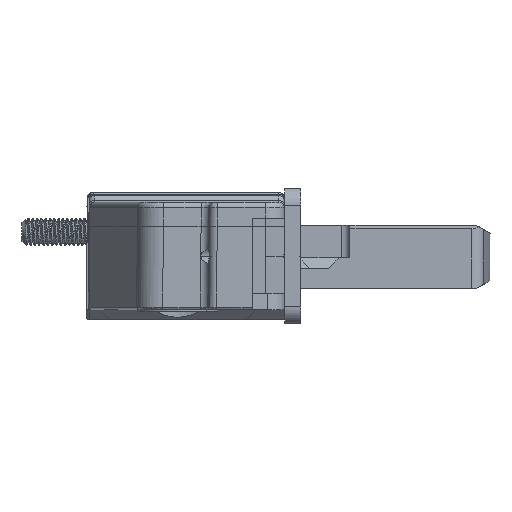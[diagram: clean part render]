
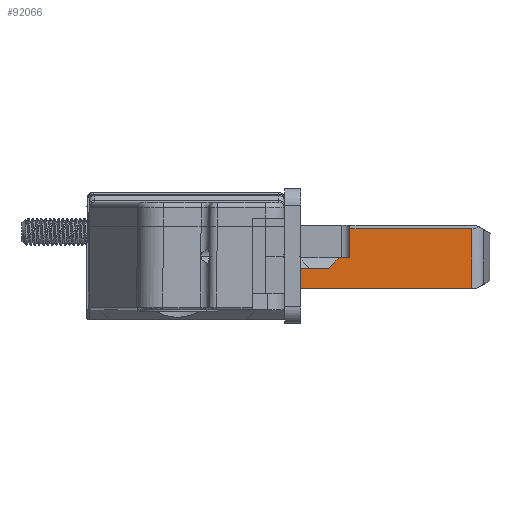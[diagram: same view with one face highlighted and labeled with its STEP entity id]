
A CAD part, front view. The second image highlights one B-rep face of the part: STEP entity #92066.
In plain terms, the highlighted planar face has unit normal (0, -1, 0) as drawn and (0, 0, 1) by its records, which use the part's own axes.
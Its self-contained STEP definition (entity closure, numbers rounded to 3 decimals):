
#89975=DIRECTION('',(1.,0.,0.));
#89976=VECTOR('',#89975,62.368);
#89977=CARTESIAN_POINT('',(-13.3,0.,12.9));
#89978=LINE('',#89977,#89976);
#90106=DIRECTION('',(1.,0.,0.));
#90107=VECTOR('',#90106,22.8);
#90108=CARTESIAN_POINT('',(-13.3,11.7,12.9));
#90109=LINE('',#90108,#90107);
#90588=DIRECTION('',(1.,0.,0.));
#90589=VECTOR('',#90588,22.568);
#90590=CARTESIAN_POINT('',(26.5,11.123,12.9));
#90591=LINE('',#90590,#90589);
#90592=DIRECTION('',(0.,1.,0.));
#90593=VECTOR('',#90592,11.7);
#90594=CARTESIAN_POINT('',(-13.3,0.,12.9));
#90595=LINE('',#90594,#90593);
#90596=DIRECTION('',(0.,-1.,0.));
#90597=VECTOR('',#90596,6.);
#90598=CARTESIAN_POINT('',(9.5,11.7,12.9));
#90599=LINE('',#90598,#90597);
#90600=DIRECTION('',(-1.,0.,0.));
#90601=VECTOR('',#90600,1.338);
#90602=CARTESIAN_POINT('',(10.838,5.7,12.9));
#90603=LINE('',#90602,#90601);
#90604=DIRECTION('',(1.,0.,0.));
#90605=VECTOR('',#90604,8.949);
#90606=CARTESIAN_POINT('',(13.551,3.7,12.9));
#90607=LINE('',#90606,#90605);
#90608=DIRECTION('',(-1.,0.,0.));
#90609=VECTOR('',#90608,2.);
#90610=CARTESIAN_POINT('',(26.5,5.7,12.9));
#90611=LINE('',#90610,#90609);
#90612=DIRECTION('',(0.,-1.,0.));
#90613=VECTOR('',#90612,5.423);
#90614=CARTESIAN_POINT('',(26.5,11.123,12.9));
#90615=LINE('',#90614,#90613);
#90670=DIRECTION('',(-0.805,0.593,0.));
#90671=VECTOR('',#90670,3.371);
#90672=CARTESIAN_POINT('',(13.551,3.7,12.9));
#90673=LINE('',#90672,#90671);
#90702=DIRECTION('',(-0.707,-0.707,0.));
#90703=VECTOR('',#90702,2.828);
#90704=CARTESIAN_POINT('',(24.5,5.7,12.9));
#90705=LINE('',#90704,#90703);
#90798=DIRECTION('',(0.,1.,0.));
#90799=VECTOR('',#90798,11.123);
#90800=CARTESIAN_POINT('',(49.068,0.,12.9));
#90801=LINE('',#90800,#90799);
#91085=CARTESIAN_POINT('',(26.5,5.7,12.9));
#91086=VERTEX_POINT('',#91085);
#91091=CARTESIAN_POINT('',(9.5,11.7,12.9));
#91092=VERTEX_POINT('',#91091);
#91093=CARTESIAN_POINT('',(9.5,5.7,12.9));
#91094=VERTEX_POINT('',#91093);
#91095=CARTESIAN_POINT('',(13.551,3.7,12.9));
#91097=VERTEX_POINT('',#91095);
#91099=CARTESIAN_POINT('',(10.838,5.7,12.9));
#91101=VERTEX_POINT('',#91099);
#91104=CARTESIAN_POINT('',(22.5,3.7,12.9));
#91106=VERTEX_POINT('',#91104);
#91108=CARTESIAN_POINT('',(24.5,5.7,12.9));
#91110=VERTEX_POINT('',#91108);
#91117=CARTESIAN_POINT('',(49.068,0.,12.9));
#91118=VERTEX_POINT('',#91117);
#91172=CARTESIAN_POINT('',(-13.3,11.7,12.9));
#91174=VERTEX_POINT('',#91172);
#91175=CARTESIAN_POINT('',(-13.3,0.,12.9));
#91176=VERTEX_POINT('',#91175);
#91211=CARTESIAN_POINT('',(26.5,11.123,12.9));
#91213=VERTEX_POINT('',#91211);
#91217=CARTESIAN_POINT('',(49.068,11.123,12.9));
#91218=VERTEX_POINT('',#91217);
#92038=CARTESIAN_POINT('',(-16.797,0.,12.9));
#92039=DIRECTION('',(0.,0.,1.));
#92040=DIRECTION('',(1.,0.,0.));
#92041=AXIS2_PLACEMENT_3D('',#92038,#92039,#92040);
#92042=PLANE('',#92041);
#92044=ORIENTED_EDGE('',*,*,#92043,.T.);
#92046=ORIENTED_EDGE('',*,*,#92045,.F.);
#92047=ORIENTED_EDGE('',*,*,#91258,.F.);
#92048=ORIENTED_EDGE('',*,*,#92031,.T.);
#92049=ORIENTED_EDGE('',*,*,#91362,.T.);
#92051=ORIENTED_EDGE('',*,*,#92050,.T.);
#92053=ORIENTED_EDGE('',*,*,#92052,.F.);
#92055=ORIENTED_EDGE('',*,*,#92054,.F.);
#92057=ORIENTED_EDGE('',*,*,#92056,.T.);
#92059=ORIENTED_EDGE('',*,*,#92058,.F.);
#92061=ORIENTED_EDGE('',*,*,#92060,.F.);
#92063=ORIENTED_EDGE('',*,*,#92062,.F.);
#92064=EDGE_LOOP('',(#92044,#92046,#92047,#92048,#92049,#92051,#92053,#92055,
#92057,#92059,#92061,#92063));
#92065=FACE_OUTER_BOUND('',#92064,.F.);
#92066=ADVANCED_FACE('',(#92065),#92042,.T.);
#91258=EDGE_CURVE('',#91176,#91118,#89978,.T.);
#91362=EDGE_CURVE('',#91174,#91092,#90109,.T.);
#92031=EDGE_CURVE('',#91176,#91174,#90595,.T.);
#92043=EDGE_CURVE('',#91213,#91218,#90591,.T.);
#92045=EDGE_CURVE('',#91118,#91218,#90801,.T.);
#92050=EDGE_CURVE('',#91092,#91094,#90599,.T.);
#92052=EDGE_CURVE('',#91101,#91094,#90603,.T.);
#92054=EDGE_CURVE('',#91097,#91101,#90673,.T.);
#92056=EDGE_CURVE('',#91097,#91106,#90607,.T.);
#92058=EDGE_CURVE('',#91110,#91106,#90705,.T.);
#92060=EDGE_CURVE('',#91086,#91110,#90611,.T.);
#92062=EDGE_CURVE('',#91213,#91086,#90615,.T.);
